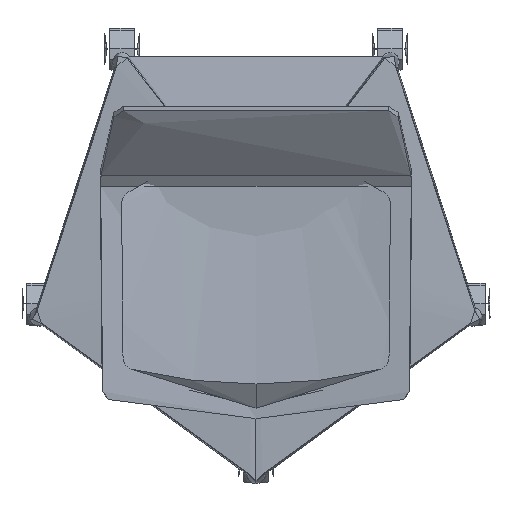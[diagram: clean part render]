
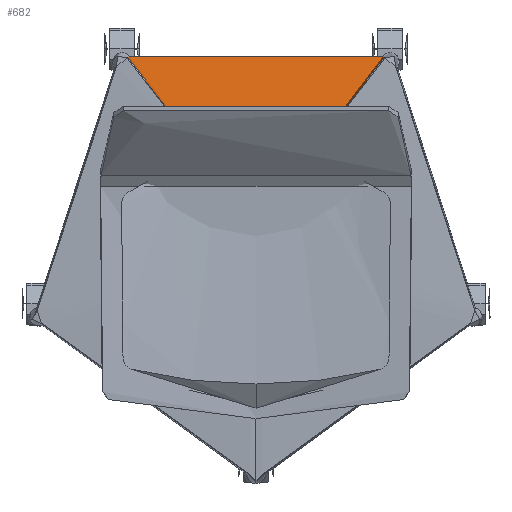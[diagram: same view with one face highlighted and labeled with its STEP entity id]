
A CAD part, top view. The second image highlights one B-rep face of the part: STEP entity #682.
In plain terms, the highlighted free-form (B-spline) face has degree [1, 2] with [2, 9] control points.
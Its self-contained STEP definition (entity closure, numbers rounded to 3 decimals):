
#250=(
BOUNDED_CURVE()
B_SPLINE_CURVE(2,(#9261,#9262,#9263,#9264,#9265,#9266,#9267,#9268,#9269),
 .UNSPECIFIED.,.F.,.F.)
B_SPLINE_CURVE_WITH_KNOTS((3,2,2,2,3),(0.,291.287,304.227,
317.167,608.455),.UNSPECIFIED.)
CURVE()
GEOMETRIC_REPRESENTATION_ITEM()
RATIONAL_B_SPLINE_CURVE((1.,1.,1.,0.895,1.,0.895,
1.,1.,1.))
REPRESENTATION_ITEM('')
);
#251=(
BOUNDED_CURVE()
B_SPLINE_CURVE(1,(#9270,#9271),.UNSPECIFIED.,.F.,.F.)
B_SPLINE_CURVE_WITH_KNOTS((2,2),(-35.284,-11.76),
 .UNSPECIFIED.)
CURVE()
GEOMETRIC_REPRESENTATION_ITEM()
RATIONAL_B_SPLINE_CURVE((1.,1.))
REPRESENTATION_ITEM('')
);
#276=(
BOUNDED_CURVE()
B_SPLINE_CURVE(1,(#9361,#9362),.UNSPECIFIED.,.F.,.F.)
B_SPLINE_CURVE_WITH_KNOTS((2,2),(11.76,35.284),
 .UNSPECIFIED.)
CURVE()
GEOMETRIC_REPRESENTATION_ITEM()
RATIONAL_B_SPLINE_CURVE((1.,1.))
REPRESENTATION_ITEM('')
);
#469=(
BOUNDED_SURFACE()
B_SPLINE_SURFACE(1,2,((#8459,#8460,#8461,#8462,#8463,#8464,#8465,#8466,
#8467),(#8468,#8469,#8470,#8471,#8472,#8473,#8474,#8475,#8476)),
 .UNSPECIFIED.,.F.,.F.,.F.)
B_SPLINE_SURFACE_WITH_KNOTS((2,2),(3,2,2,2,3),(0.,35.284),(0.,
291.287,304.227,317.167,608.455),
 .UNSPECIFIED.)
GEOMETRIC_REPRESENTATION_ITEM()
RATIONAL_B_SPLINE_SURFACE(((1.,1.,1.,0.895,1.,0.895,
1.,1.,1.),(1.,1.,1.,0.895,1.,0.895,1.,1.,1.)))
REPRESENTATION_ITEM('')
SURFACE()
);
#682=ADVANCED_FACE('',(#901),#469,.T.);
#901=FACE_OUTER_BOUND('',#1120,.T.);
#1120=EDGE_LOOP('',(#1762,#1763,#1764,#1765,#1766));
#1762=ORIENTED_EDGE('',*,*,#2535,.T.);
#1763=ORIENTED_EDGE('',*,*,#2502,.T.);
#1764=ORIENTED_EDGE('',*,*,#2476,.T.);
#1765=ORIENTED_EDGE('',*,*,#2477,.T.);
#1766=ORIENTED_EDGE('',*,*,#2532,.T.);
#2476=EDGE_CURVE('',#3131,#3132,#250,.T.);
#2477=EDGE_CURVE('',#3132,#3162,#251,.T.);
#2502=EDGE_CURVE('',#3161,#3131,#276,.T.);
#2532=EDGE_CURVE('',#3162,#3160,#2815,.T.);
#2535=EDGE_CURVE('',#3160,#3161,#2818,.T.);
#2815=B_SPLINE_CURVE_WITH_KNOTS('',3,(#9790,#9791,#9792,#9793,#9794,#9795,
#9796,#9797,#9798,#9799,#9800,#9801,#9802),.UNSPECIFIED.,.F.,.F.,(4,3,1,
1,3,1,4),(-0.072,-0.072,125.827,199.822,
291.478,298.304,305.233),.UNSPECIFIED.);
#2818=B_SPLINE_CURVE_WITH_KNOTS('',3,(#9818,#9819,#9820,#9821,#9822,#9823,
#9824,#9825,#9826,#9827,#9828,#9829,#9830),.UNSPECIFIED.,.F.,.F.,(4,1,3,
1,1,3,4),(0.,6.929,13.755,105.411,
179.406,305.304,305.304),.UNSPECIFIED.);
#3131=VERTEX_POINT('',#9181);
#3132=VERTEX_POINT('',#9182);
#3160=VERTEX_POINT('',#9210);
#3161=VERTEX_POINT('',#9211);
#3162=VERTEX_POINT('',#9212);
#8459=CARTESIAN_POINT('',(186.645,272.207,95.95));
#8460=CARTESIAN_POINT('',(98.91,155.955,95.95));
#8461=CARTESIAN_POINT('',(11.175,39.702,95.95));
#8462=CARTESIAN_POINT('',(6.974,34.136,95.95));
#8463=CARTESIAN_POINT('',(0.,34.136,95.95));
#8464=CARTESIAN_POINT('',(-6.974,34.136,95.95));
#8465=CARTESIAN_POINT('',(-11.175,39.702,95.95));
#8466=CARTESIAN_POINT('',(-98.91,155.955,95.95));
#8467=CARTESIAN_POINT('',(-186.645,272.207,95.95));
#8468=CARTESIAN_POINT('',(183.452,274.617,60.95));
#8469=CARTESIAN_POINT('',(95.717,158.364,60.95));
#8470=CARTESIAN_POINT('',(7.982,42.112,60.95));
#8471=CARTESIAN_POINT('',(4.981,38.136,60.95));
#8472=CARTESIAN_POINT('',(0.,38.136,60.95));
#8473=CARTESIAN_POINT('',(-4.981,38.136,60.95));
#8474=CARTESIAN_POINT('',(-7.982,42.112,60.95));
#8475=CARTESIAN_POINT('',(-95.717,158.364,60.95));
#8476=CARTESIAN_POINT('',(-183.452,274.617,60.95));
#9181=CARTESIAN_POINT('',(183.452,274.617,60.95));
#9182=CARTESIAN_POINT('',(-183.452,274.617,60.95));
#9210=CARTESIAN_POINT('',(0.,34.246,94.983));
#9211=CARTESIAN_POINT('',(185.581,273.01,84.284));
#9212=CARTESIAN_POINT('',(-185.581,273.01,84.284));
#9261=CARTESIAN_POINT('',(183.452,274.617,60.95));
#9262=CARTESIAN_POINT('',(95.717,158.364,60.95));
#9263=CARTESIAN_POINT('',(7.982,42.112,60.95));
#9264=CARTESIAN_POINT('',(4.981,38.136,60.95));
#9265=CARTESIAN_POINT('',(0.,38.136,60.95));
#9266=CARTESIAN_POINT('',(-4.981,38.136,60.95));
#9267=CARTESIAN_POINT('',(-7.982,42.112,60.95));
#9268=CARTESIAN_POINT('',(-95.717,158.364,60.95));
#9269=CARTESIAN_POINT('',(-183.452,274.617,60.95));
#9270=CARTESIAN_POINT('',(-183.452,274.617,60.95));
#9271=CARTESIAN_POINT('',(-185.581,273.01,84.284));
#9361=CARTESIAN_POINT('',(185.581,273.01,84.284));
#9362=CARTESIAN_POINT('',(183.452,274.617,60.95));
#9790=CARTESIAN_POINT('',(-185.581,273.01,84.284));
#9791=CARTESIAN_POINT('',(-185.581,273.01,84.284));
#9792=CARTESIAN_POINT('',(-185.581,273.01,84.284));
#9793=CARTESIAN_POINT('',(-185.581,273.01,84.284));
#9794=CARTESIAN_POINT('',(-160.684,239.389,87.612));
#9795=CARTESIAN_POINT('',(-120.927,186.026,91.218));
#9796=CARTESIAN_POINT('',(-62.668,108.291,94.063));
#9797=CARTESIAN_POINT('',(-29.471,64.17,94.765));
#9798=CARTESIAN_POINT('',(-11.083,39.772,94.941));
#9799=CARTESIAN_POINT('',(-9.807,38.074,94.954));
#9800=CARTESIAN_POINT('',(-6.432,35.263,94.975));
#9801=CARTESIAN_POINT('',(-2.156,34.243,94.983));
#9802=CARTESIAN_POINT('',(0.,34.246,94.983));
#9818=CARTESIAN_POINT('',(0.,34.246,94.983));
#9819=CARTESIAN_POINT('',(2.156,34.243,94.983));
#9820=CARTESIAN_POINT('',(6.432,35.263,94.975));
#9821=CARTESIAN_POINT('',(9.807,38.074,94.954));
#9822=CARTESIAN_POINT('',(11.083,39.772,94.941));
#9823=CARTESIAN_POINT('',(29.471,64.17,94.765));
#9824=CARTESIAN_POINT('',(62.668,108.291,94.063));
#9825=CARTESIAN_POINT('',(120.927,186.026,91.218));
#9826=CARTESIAN_POINT('',(160.683,239.389,87.612));
#9827=CARTESIAN_POINT('',(185.58,273.01,84.284));
#9828=CARTESIAN_POINT('',(185.581,273.01,84.284));
#9829=CARTESIAN_POINT('',(185.581,273.01,84.284));
#9830=CARTESIAN_POINT('',(185.581,273.01,84.284));
